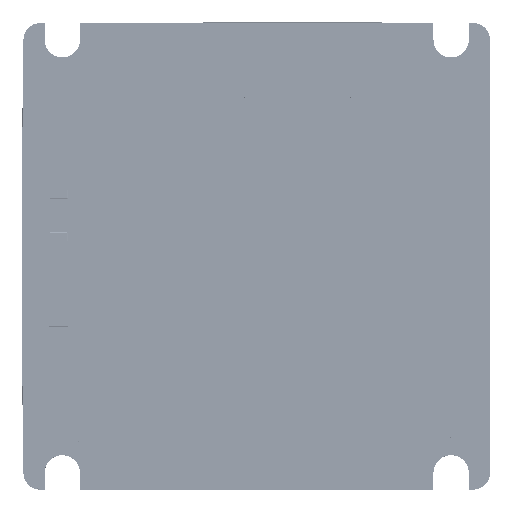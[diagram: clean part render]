
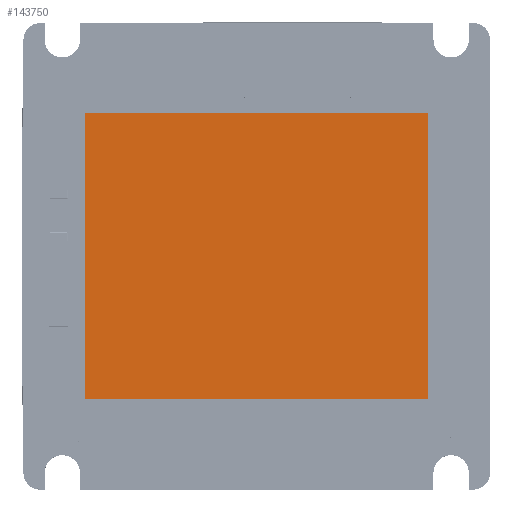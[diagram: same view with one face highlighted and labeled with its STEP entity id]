
A CAD part, top view. The second image highlights one B-rep face of the part: STEP entity #143750.
In plain terms, the highlighted planar face has unit normal (0, 0, 1).
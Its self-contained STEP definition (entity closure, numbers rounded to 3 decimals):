
#6890 = VECTOR ( 'NONE', #534436, 1000. ) ;
#6948 = FACE_OUTER_BOUND ( 'NONE', #17037, .T. ) ;
#17037 = EDGE_LOOP ( 'NONE', ( #465033, #503689, #242960, #707139 ) ) ;
#43401 = EDGE_CURVE ( 'NONE', #606826, #65907, #52440, .T. ) ;
#52440 = LINE ( 'NONE', #347018, #6890 ) ;
#65907 = VERTEX_POINT ( 'NONE', #364812 ) ;
#69201 = DIRECTION ( 'NONE',  ( 0., 1., 0. ) ) ;
#110207 = DIRECTION ( 'NONE',  ( 1., 0., 0. ) ) ;
#142973 = CARTESIAN_POINT ( 'NONE',  ( 9.7, 8.1, 1.7 ) ) ;
#143750 = ADVANCED_FACE ( 'NONE', ( #6948 ), #286611, .T. ) ;
#237703 = CARTESIAN_POINT ( 'NONE',  ( 9.7, 8.1, 1.7 ) ) ;
#242960 = ORIENTED_EDGE ( 'NONE', *, *, #681378, .T. ) ;
#275913 = VERTEX_POINT ( 'NONE', #499770 ) ;
#286611 = PLANE ( 'NONE',  #641181 ) ;
#347018 = CARTESIAN_POINT ( 'NONE',  ( -9.7, 8.1, 1.7 ) ) ;
#347399 = LINE ( 'NONE', #684537, #690185 ) ;
#349457 = CARTESIAN_POINT ( 'NONE',  ( 9.7, -8.1, 1.7 ) ) ;
#352828 = LINE ( 'NONE', #536401, #359371 ) ;
#359371 = VECTOR ( 'NONE', #360398, 1000. ) ;
#360398 = DIRECTION ( 'NONE',  ( 0., -1., 0. ) ) ;
#364812 = CARTESIAN_POINT ( 'NONE',  ( -9.7, 8.1, 1.7 ) ) ;
#377238 = VECTOR ( 'NONE', #69201, 1000. ) ;
#417689 = VERTEX_POINT ( 'NONE', #349457 ) ;
#465033 = ORIENTED_EDGE ( 'NONE', *, *, #587010, .T. ) ;
#473955 = DIRECTION ( 'NONE',  ( 1., 0., 0. ) ) ;
#499770 = CARTESIAN_POINT ( 'NONE',  ( -9.7, -8.1, 1.7 ) ) ;
#503689 = ORIENTED_EDGE ( 'NONE', *, *, #589235, .T. ) ;
#520124 = DIRECTION ( 'NONE',  ( 0., 0., 1. ) ) ;
#534436 = DIRECTION ( 'NONE',  ( -1., 0., 0. ) ) ;
#536401 = CARTESIAN_POINT ( 'NONE',  ( -9.7, 8.1, 1.7 ) ) ;
#587010 = EDGE_CURVE ( 'NONE', #65907, #275913, #352828, .T. ) ;
#589235 = EDGE_CURVE ( 'NONE', #275913, #417689, #347399, .T. ) ;
#604860 = LINE ( 'NONE', #237703, #377238 ) ;
#606826 = VERTEX_POINT ( 'NONE', #142973 ) ;
#641181 = AXIS2_PLACEMENT_3D ( 'NONE', #707529, #520124, #473955 ) ;
#681378 = EDGE_CURVE ( 'NONE', #417689, #606826, #604860, .T. ) ;
#684537 = CARTESIAN_POINT ( 'NONE',  ( -9.7, -8.1, 1.7 ) ) ;
#690185 = VECTOR ( 'NONE', #110207, 1000. ) ;
#707139 = ORIENTED_EDGE ( 'NONE', *, *, #43401, .T. ) ;
#707529 = CARTESIAN_POINT ( 'NONE',  ( 0., 0., 1.7 ) ) ;
